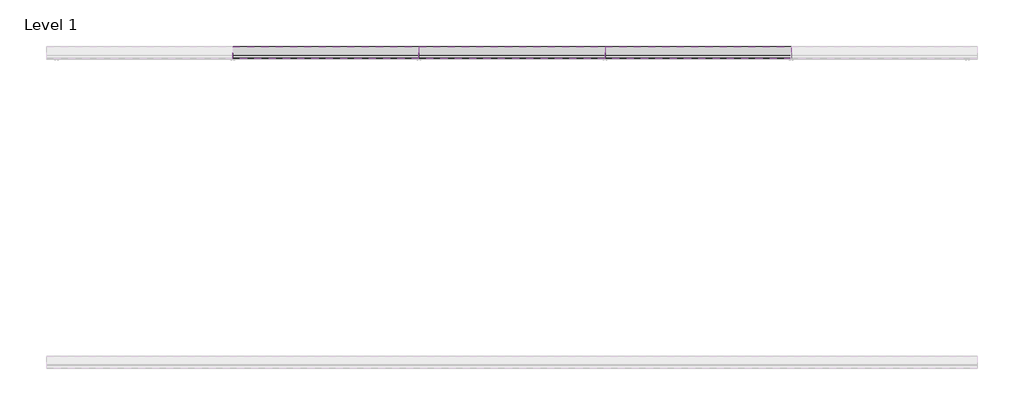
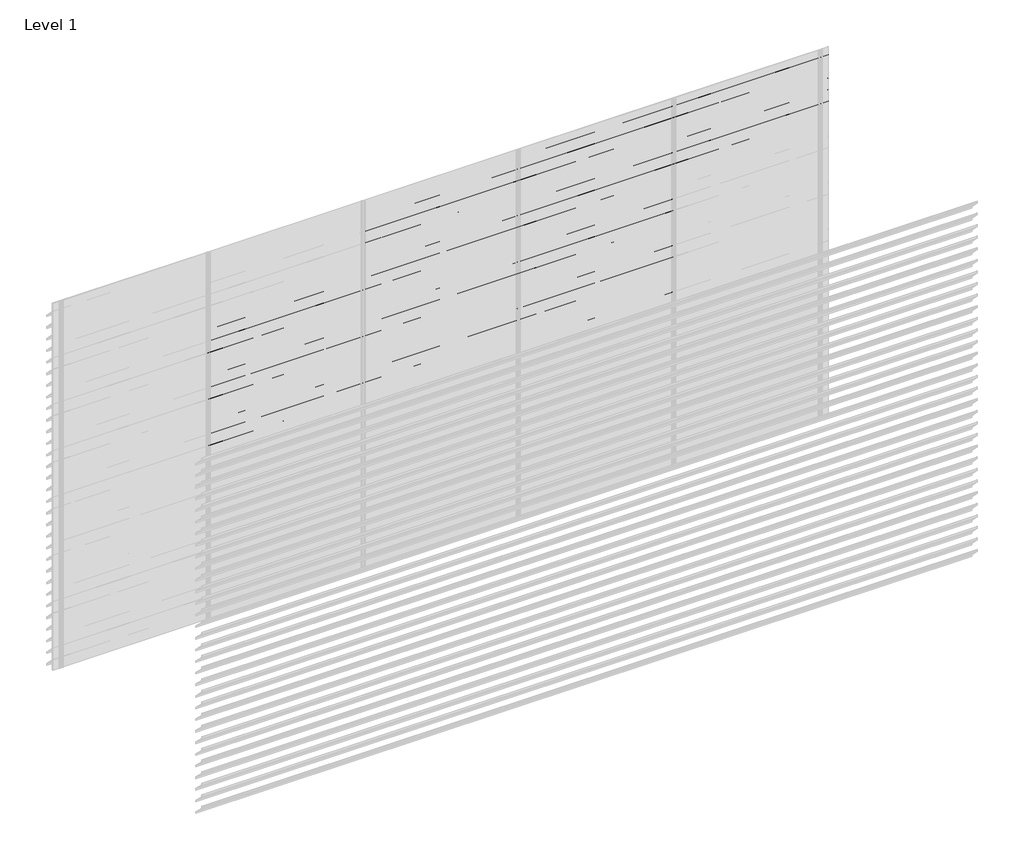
# One storey, part 23 of 24: 94 proxies.
"""IFC4 building model written with IfcOpenShell, lengths in millimetres."""

from ifc_helpers import new_model, si_unit, frame, origin, place, context, project, spatial, polyline, outline, extrude, element, save

model = new_model("IFC4")

# Units and contexts
model_context = context("Model", 3, world=origin())
ifc_project = project(units=[si_unit("LENGTHUNIT", "METRE", prefix="MILLI")], contexts=[model_context])

# Site, building, storey
site = spatial("IfcSite", under=ifc_project)
building = spatial("IfcBuilding", under=site)
storey = spatial("IfcBuildingStorey", under=building, Name="Level 1", Elevation=0.0)

# Proxies
placement = place(None, origin())
element("IfcBuildingElementProxy", 1, Name="Wall Sweeps", at=placement, inside=storey, context=model_context, shape_type="SweptSolid", body=[
    extrude(outline(polyline([(79.2, 2367.9), (77.7, 2367.9), (77.7, 2380.1762333), (2.0, 2455.4561238), (2.0, 2470.0), (3.5, 2470.0), (3.5, 2456.0798905), (79.2, 2380.8), (79.2, 2367.9)])), frame((1200.0, 0.0, 0.0), z_axis=(1.0, 0.0, 0.0), x_axis=(0.0, 1.0, 0.0)), (0.0, 0.0, 1.0), 1200.0),
])
element("IfcBuildingElementProxy", 2, Name="Wall Sweeps", at=placement, inside=storey, context=model_context, shape_type="SweptSolid", body=[
    extrude(outline(polyline([(79.2, 2272.9), (77.7, 2272.9), (77.7, 2285.1762333), (2.0, 2360.4561238), (2.0, 2375.0), (3.5, 2375.0), (3.5, 2361.0798905), (79.2, 2285.8), (79.2, 2272.9)])), frame((1200.0, 0.0, 0.0), z_axis=(1.0, 0.0, 0.0), x_axis=(0.0, 1.0, 0.0)), (0.0, 0.0, 1.0), 1200.0),
])
element("IfcBuildingElementProxy", 3, Name="Wall Sweeps", at=placement, inside=storey, context=model_context, shape_type="SweptSolid", body=[
    extrude(outline(polyline([(79.2, 2177.9), (77.7, 2177.9), (77.7, 2190.1762333), (2.0, 2265.4561238), (2.0, 2280.0), (3.5, 2280.0), (3.5, 2266.0798905), (79.2, 2190.8), (79.2, 2177.9)])), frame((1200.0, 0.0, 0.0), z_axis=(1.0, 0.0, 0.0), x_axis=(0.0, 1.0, 0.0)), (0.0, 0.0, 1.0), 1200.0),
])
element("IfcBuildingElementProxy", 4, Name="Wall Sweeps", at=placement, inside=storey, context=model_context, shape_type="SweptSolid", body=[
    extrude(outline(polyline([(79.2, 2082.9), (77.7, 2082.9), (77.7, 2095.1762333), (2.0, 2170.4561238), (2.0, 2185.0), (3.5, 2185.0), (3.5, 2171.0798905), (79.2, 2095.8), (79.2, 2082.9)])), frame((1200.0, 0.0, 0.0), z_axis=(1.0, 0.0, 0.0), x_axis=(0.0, 1.0, 0.0)), (0.0, 0.0, 1.0), 1200.0),
])
element("IfcBuildingElementProxy", 5, Name="Wall Sweeps", at=placement, inside=storey, context=model_context, shape_type="SweptSolid", body=[
    extrude(outline(polyline([(79.2, 1987.9), (77.7, 1987.9), (77.7, 2000.1762333), (2.0, 2075.4561238), (2.0, 2090.0), (3.5, 2090.0), (3.5, 2076.0798905), (79.2, 2000.8), (79.2, 1987.9)])), frame((1200.0, 0.0, 0.0), z_axis=(1.0, 0.0, 0.0), x_axis=(0.0, 1.0, 0.0)), (0.0, 0.0, 1.0), 1200.0),
])
element("IfcBuildingElementProxy", 6, Name="Wall Sweeps", at=placement, inside=storey, context=model_context, shape_type="SweptSolid", body=[
    extrude(outline(polyline([(79.2, 1892.9), (77.7, 1892.9), (77.7, 1905.1762333), (2.0, 1980.4561238), (2.0, 1995.0), (3.5, 1995.0), (3.5, 1981.0798905), (79.2, 1905.8), (79.2, 1892.9)])), frame((1200.0, 0.0, 0.0), z_axis=(1.0, 0.0, 0.0), x_axis=(0.0, 1.0, 0.0)), (0.0, 0.0, 1.0), 1200.0),
])
element("IfcBuildingElementProxy", 7, Name="Wall Sweeps", at=placement, inside=storey, context=model_context, shape_type="SweptSolid", body=[
    extrude(outline(polyline([(79.2, 1797.9), (77.7, 1797.9), (77.7, 1810.1762333), (2.0, 1885.4561238), (2.0, 1900.0), (3.5, 1900.0), (3.5, 1886.0798905), (79.2, 1810.8), (79.2, 1797.9)])), frame((1200.0, 0.0, 0.0), z_axis=(1.0, 0.0, 0.0), x_axis=(0.0, 1.0, 0.0)), (0.0, 0.0, 1.0), 1200.0),
])
element("IfcBuildingElementProxy", 8, Name="Wall Sweeps", at=placement, inside=storey, context=model_context, shape_type="SweptSolid", body=[
    extrude(outline(polyline([(79.2, 1702.9), (77.7, 1702.9), (77.7, 1715.1762333), (2.0, 1790.4561238), (2.0, 1805.0), (3.5, 1805.0), (3.5, 1791.0798905), (79.2, 1715.8), (79.2, 1702.9)])), frame((1200.0, 0.0, 0.0), z_axis=(1.0, 0.0, 0.0), x_axis=(0.0, 1.0, 0.0)), (0.0, 0.0, 1.0), 1200.0),
])
element("IfcBuildingElementProxy", 9, Name="Wall Sweeps", at=placement, inside=storey, context=model_context, shape_type="SweptSolid", body=[
    extrude(outline(polyline([(79.2, 1607.9), (77.7, 1607.9), (77.7, 1620.1762333), (2.0, 1695.4561238), (2.0, 1710.0), (3.5, 1710.0), (3.5, 1696.0798905), (79.2, 1620.8), (79.2, 1607.9)])), frame((1200.0, 0.0, 0.0), z_axis=(1.0, 0.0, 0.0), x_axis=(0.0, 1.0, 0.0)), (0.0, 0.0, 1.0), 1200.0),
])
element("IfcBuildingElementProxy", 10, Name="Wall Sweeps", at=placement, inside=storey, context=model_context, shape_type="SweptSolid", body=[
    extrude(outline(polyline([(79.2, 1512.9), (77.7, 1512.9), (77.7, 1525.1762333), (2.0, 1600.4561238), (2.0, 1615.0), (3.5, 1615.0), (3.5, 1601.0798905), (79.2, 1525.8), (79.2, 1512.9)])), frame((1200.0, 0.0, 0.0), z_axis=(1.0, 0.0, 0.0), x_axis=(0.0, 1.0, 0.0)), (0.0, 0.0, 1.0), 1200.0),
])
element("IfcBuildingElementProxy", 11, Name="Wall Sweeps", at=placement, inside=storey, context=model_context, shape_type="SweptSolid", body=[
    extrude(outline(polyline([(79.2, 1417.9), (77.7, 1417.9), (77.7, 1430.1762333), (2.0, 1505.4561238), (2.0, 1520.0), (3.5, 1520.0), (3.5, 1506.0798905), (79.2, 1430.8), (79.2, 1417.9)])), frame((1200.0, 0.0, 0.0), z_axis=(1.0, 0.0, 0.0), x_axis=(0.0, 1.0, 0.0)), (0.0, 0.0, 1.0), 1200.0),
])
element("IfcBuildingElementProxy", 12, Name="Wall Sweeps", at=placement, inside=storey, context=model_context, shape_type="SweptSolid", body=[
    extrude(outline(polyline([(79.2, 1322.9), (77.7, 1322.9), (77.7, 1335.1762333), (2.0, 1410.4561238), (2.0, 1425.0), (3.5, 1425.0), (3.5, 1411.0798905), (79.2, 1335.8), (79.2, 1322.9)])), frame((1200.0, 0.0, 0.0), z_axis=(1.0, 0.0, 0.0), x_axis=(0.0, 1.0, 0.0)), (0.0, 0.0, 1.0), 1200.0),
])
element("IfcBuildingElementProxy", 13, Name="Wall Sweeps", at=placement, inside=storey, context=model_context, shape_type="SweptSolid", body=[
    extrude(outline(polyline([(79.2, 1227.9), (77.7, 1227.9), (77.7, 1240.1762333), (2.0, 1315.4561238), (2.0, 1330.0), (3.5, 1330.0), (3.5, 1316.0798905), (79.2, 1240.8), (79.2, 1227.9)])), frame((1200.0, 0.0, 0.0), z_axis=(1.0, 0.0, 0.0), x_axis=(0.0, 1.0, 0.0)), (0.0, 0.0, 1.0), 1200.0),
])
element("IfcBuildingElementProxy", 14, Name="Wall Sweeps", at=placement, inside=storey, context=model_context, shape_type="SweptSolid", body=[
    extrude(outline(polyline([(79.2, 1132.9), (77.7, 1132.9), (77.7, 1145.1762333), (2.0, 1220.4561238), (2.0, 1235.0), (3.5, 1235.0), (3.5, 1221.0798905), (79.2, 1145.8), (79.2, 1132.9)])), frame((1200.0, 0.0, 0.0), z_axis=(1.0, 0.0, 0.0), x_axis=(0.0, 1.0, 0.0)), (0.0, 0.0, 1.0), 1200.0),
])
element("IfcBuildingElementProxy", 15, Name="Wall Sweeps", at=placement, inside=storey, context=model_context, shape_type="SweptSolid", body=[
    extrude(outline(polyline([(79.2, 1037.9), (77.7, 1037.9), (77.7, 1050.1762333), (2.0, 1125.4561238), (2.0, 1140.0), (3.5, 1140.0), (3.5, 1126.0798905), (79.2, 1050.8), (79.2, 1037.9)])), frame((1200.0, 0.0, 0.0), z_axis=(1.0, 0.0, 0.0), x_axis=(0.0, 1.0, 0.0)), (0.0, 0.0, 1.0), 1200.0),
])
element("IfcBuildingElementProxy", 16, Name="Wall Sweeps", at=placement, inside=storey, context=model_context, shape_type="SweptSolid", body=[
    extrude(outline(polyline([(79.2, 942.9), (77.7, 942.9), (77.7, 955.1762333), (2.0, 1030.4561238), (2.0, 1045.0), (3.5, 1045.0), (3.5, 1031.0798905), (79.2, 955.8), (79.2, 942.9)])), frame((1200.0, 0.0, 0.0), z_axis=(1.0, 0.0, 0.0), x_axis=(0.0, 1.0, 0.0)), (0.0, 0.0, 1.0), 1200.0),
])
element("IfcBuildingElementProxy", 17, Name="Wall Sweeps", at=placement, inside=storey, context=model_context, shape_type="SweptSolid", body=[
    extrude(outline(polyline([(79.2, 847.9), (77.7, 847.9), (77.7, 860.1762333), (2.0, 935.4561238), (2.0, 950.0), (3.5, 950.0), (3.5, 936.0798905), (79.2, 860.8), (79.2, 847.9)])), frame((1200.0, 0.0, 0.0), z_axis=(1.0, 0.0, 0.0), x_axis=(0.0, 1.0, 0.0)), (0.0, 0.0, 1.0), 1200.0),
])
element("IfcBuildingElementProxy", 18, Name="Wall Sweeps", at=placement, inside=storey, context=model_context, shape_type="SweptSolid", body=[
    extrude(outline(polyline([(79.2, 752.9), (77.7, 752.9), (77.7, 765.1762333), (2.0, 840.4561238), (2.0, 855.0), (3.5, 855.0), (3.5, 841.0798905), (79.2, 765.8), (79.2, 752.9)])), frame((1200.0, 0.0, 0.0), z_axis=(1.0, 0.0, 0.0), x_axis=(0.0, 1.0, 0.0)), (0.0, 0.0, 1.0), 1200.0),
])
element("IfcBuildingElementProxy", 19, Name="Wall Sweeps", at=placement, inside=storey, context=model_context, shape_type="SweptSolid", body=[
    extrude(outline(polyline([(79.2, 657.9), (77.7, 657.9), (77.7, 670.1762333), (2.0, 745.4561238), (2.0, 760.0), (3.5, 760.0), (3.5, 746.0798905), (79.2, 670.8), (79.2, 657.9)])), frame((1200.0, 0.0, 0.0), z_axis=(1.0, 0.0, 0.0), x_axis=(0.0, 1.0, 0.0)), (0.0, 0.0, 1.0), 1200.0),
])
element("IfcBuildingElementProxy", 20, Name="Wall Sweeps", at=placement, inside=storey, context=model_context, shape_type="SweptSolid", body=[
    extrude(outline(polyline([(79.2, 562.9), (77.7, 562.9), (77.7, 575.1762333), (2.0, 650.4561238), (2.0, 665.0), (3.5, 665.0), (3.5, 651.0798905), (79.2, 575.8), (79.2, 562.9)])), frame((1200.0, 0.0, 0.0), z_axis=(1.0, 0.0, 0.0), x_axis=(0.0, 1.0, 0.0)), (0.0, 0.0, 1.0), 1200.0),
])
element("IfcBuildingElementProxy", 21, Name="Wall Sweeps", at=placement, inside=storey, context=model_context, shape_type="SweptSolid", body=[
    extrude(outline(polyline([(79.2, 467.9), (77.7, 467.9), (77.7, 480.1762333), (2.0, 555.4561238), (2.0, 570.0), (3.5, 570.0), (3.5, 556.0798905), (79.2, 480.8), (79.2, 467.9)])), frame((1200.0, 0.0, 0.0), z_axis=(1.0, 0.0, 0.0), x_axis=(0.0, 1.0, 0.0)), (0.0, 0.0, 1.0), 1200.0),
])
element("IfcBuildingElementProxy", 22, Name="Wall Sweeps", at=placement, inside=storey, context=model_context, shape_type="SweptSolid", body=[
    extrude(outline(polyline([(79.2, 372.9), (77.7, 372.9), (77.7, 385.1762333), (2.0, 460.4561238), (2.0, 475.0), (3.5, 475.0), (3.5, 461.0798905), (79.2, 385.8), (79.2, 372.9)])), frame((1200.0, 0.0, 0.0), z_axis=(1.0, 0.0, 0.0), x_axis=(0.0, 1.0, 0.0)), (0.0, 0.0, 1.0), 1200.0),
])
element("IfcBuildingElementProxy", 23, Name="Wall Sweeps", at=placement, inside=storey, context=model_context, shape_type="SweptSolid", body=[
    extrude(outline(polyline([(79.2, 277.9), (77.7, 277.9), (77.7, 290.1762333), (2.0, 365.4561238), (2.0, 380.0), (3.5, 380.0), (3.5, 366.0798905), (79.2, 290.8), (79.2, 277.9)])), frame((1200.0, 0.0, 0.0), z_axis=(1.0, 0.0, 0.0), x_axis=(0.0, 1.0, 0.0)), (0.0, 0.0, 1.0), 1200.0),
])
element("IfcBuildingElementProxy", 24, Name="Wall Sweeps", at=placement, inside=storey, context=model_context, shape_type="SweptSolid", body=[
    extrude(outline(polyline([(79.2, 182.9), (77.7, 182.9), (77.7, 195.1762333), (2.0, 270.4561238), (2.0, 285.0), (3.5, 285.0), (3.5, 271.0798905), (79.2, 195.8), (79.2, 182.9)])), frame((1200.0, 0.0, 0.0), z_axis=(1.0, 0.0, 0.0), x_axis=(0.0, 1.0, 0.0)), (0.0, 0.0, 1.0), 1200.0),
])
element("IfcBuildingElementProxy", 25, Name="Wall Sweeps", at=placement, inside=storey, context=model_context, shape_type="SweptSolid", body=[
    extrude(outline(polyline([(79.2, 87.9), (77.7, 87.9), (77.7, 100.1762333), (2.0, 175.4561238), (2.0, 190.0), (3.5, 190.0), (3.5, 176.0798905), (79.2, 100.8), (79.2, 87.9)])), frame((1200.0, 0.0, 0.0), z_axis=(1.0, 0.0, 0.0), x_axis=(0.0, 1.0, 0.0)), (0.0, 0.0, 1.0), 1200.0),
])
element("IfcBuildingElementProxy", 26, Name="Wall Sweeps", at=placement, inside=storey, context=model_context, shape_type="SweptSolid", body=[
    extrude(outline(polyline([(79.2, -7.1), (77.7, -7.1), (77.7, 5.1762333), (2.0, 80.4561238), (2.0, 95.0), (3.5, 95.0), (3.5, 81.0798905), (79.2, 5.8), (79.2, -7.1)])), frame((1200.0, 0.0, 0.0), z_axis=(1.0, 0.0, 0.0), x_axis=(0.0, 1.0, 0.0)), (0.0, 0.0, 1.0), 1200.0),
])
element("IfcBuildingElementProxy", 27, Name="Wall Sweeps", at=placement, inside=storey, context=model_context, shape_type="SweptSolid", body=[
    extrude(outline(polyline([(79.2, 2842.9), (77.7, 2842.9), (77.7, 2855.1762333), (2.0, 2930.4561238), (2.0, 2945.0), (3.5, 2945.0), (3.5, 2931.0798905), (79.2, 2855.8), (79.2, 2842.9)])), frame((2400.0, 0.0, 0.0), z_axis=(1.0, 0.0, 0.0), x_axis=(0.0, 1.0, 0.0)), (0.0, 0.0, 1.0), 1200.0),
])
element("IfcBuildingElementProxy", 28, Name="Wall Sweeps", at=placement, inside=storey, context=model_context, shape_type="SweptSolid", body=[
    extrude(outline(polyline([(79.2, 2747.9), (77.7, 2747.9), (77.7, 2760.1762333), (2.0, 2835.4561238), (2.0, 2850.0), (3.5, 2850.0), (3.5, 2836.0798905), (79.2, 2760.8), (79.2, 2747.9)])), frame((2400.0, 0.0, 0.0), z_axis=(1.0, 0.0, 0.0), x_axis=(0.0, 1.0, 0.0)), (0.0, 0.0, 1.0), 1200.0),
])
element("IfcBuildingElementProxy", 29, Name="Wall Sweeps", at=placement, inside=storey, context=model_context, shape_type="SweptSolid", body=[
    extrude(outline(polyline([(79.2, 2652.9), (77.7, 2652.9), (77.7, 2665.1762333), (2.0, 2740.4561238), (2.0, 2755.0), (3.5, 2755.0), (3.5, 2741.0798905), (79.2, 2665.8), (79.2, 2652.9)])), frame((2400.0, 0.0, 0.0), z_axis=(1.0, 0.0, 0.0), x_axis=(0.0, 1.0, 0.0)), (0.0, 0.0, 1.0), 1200.0),
])
element("IfcBuildingElementProxy", 30, Name="Wall Sweeps", at=placement, inside=storey, context=model_context, shape_type="SweptSolid", body=[
    extrude(outline(polyline([(79.2, 2557.9), (77.7, 2557.9), (77.7, 2570.1762333), (2.0, 2645.4561238), (2.0, 2660.0), (3.5, 2660.0), (3.5, 2646.0798905), (79.2, 2570.8), (79.2, 2557.9)])), frame((2400.0, 0.0, 0.0), z_axis=(1.0, 0.0, 0.0), x_axis=(0.0, 1.0, 0.0)), (0.0, 0.0, 1.0), 1200.0),
])
element("IfcBuildingElementProxy", 31, Name="Wall Sweeps", at=placement, inside=storey, context=model_context, shape_type="SweptSolid", body=[
    extrude(outline(polyline([(79.2, 2462.9), (77.7, 2462.9), (77.7, 2475.1762333), (2.0, 2550.4561238), (2.0, 2565.0), (3.5, 2565.0), (3.5, 2551.0798905), (79.2, 2475.8), (79.2, 2462.9)])), frame((2400.0, 0.0, 0.0), z_axis=(1.0, 0.0, 0.0), x_axis=(0.0, 1.0, 0.0)), (0.0, 0.0, 1.0), 1200.0),
])
element("IfcBuildingElementProxy", 32, Name="Wall Sweeps", at=placement, inside=storey, context=model_context, shape_type="SweptSolid", body=[
    extrude(outline(polyline([(79.2, 2367.9), (77.7, 2367.9), (77.7, 2380.1762333), (2.0, 2455.4561238), (2.0, 2470.0), (3.5, 2470.0), (3.5, 2456.0798905), (79.2, 2380.8), (79.2, 2367.9)])), frame((2400.0, 0.0, 0.0), z_axis=(1.0, 0.0, 0.0), x_axis=(0.0, 1.0, 0.0)), (0.0, 0.0, 1.0), 1200.0),
])
element("IfcBuildingElementProxy", 33, Name="Wall Sweeps", at=placement, inside=storey, context=model_context, shape_type="SweptSolid", body=[
    extrude(outline(polyline([(79.2, 2272.9), (77.7, 2272.9), (77.7, 2285.1762333), (2.0, 2360.4561238), (2.0, 2375.0), (3.5, 2375.0), (3.5, 2361.0798905), (79.2, 2285.8), (79.2, 2272.9)])), frame((2400.0, 0.0, 0.0), z_axis=(1.0, 0.0, 0.0), x_axis=(0.0, 1.0, 0.0)), (0.0, 0.0, 1.0), 1200.0),
])
element("IfcBuildingElementProxy", 34, Name="Wall Sweeps", at=placement, inside=storey, context=model_context, shape_type="SweptSolid", body=[
    extrude(outline(polyline([(79.2, 2177.9), (77.7, 2177.9), (77.7, 2190.1762333), (2.0, 2265.4561238), (2.0, 2280.0), (3.5, 2280.0), (3.5, 2266.0798905), (79.2, 2190.8), (79.2, 2177.9)])), frame((2400.0, 0.0, 0.0), z_axis=(1.0, 0.0, 0.0), x_axis=(0.0, 1.0, 0.0)), (0.0, 0.0, 1.0), 1200.0),
])
element("IfcBuildingElementProxy", 35, Name="Wall Sweeps", at=placement, inside=storey, context=model_context, shape_type="SweptSolid", body=[
    extrude(outline(polyline([(79.2, 2082.9), (77.7, 2082.9), (77.7, 2095.1762333), (2.0, 2170.4561238), (2.0, 2185.0), (3.5, 2185.0), (3.5, 2171.0798905), (79.2, 2095.8), (79.2, 2082.9)])), frame((2400.0, 0.0, 0.0), z_axis=(1.0, 0.0, 0.0), x_axis=(0.0, 1.0, 0.0)), (0.0, 0.0, 1.0), 1200.0),
])
element("IfcBuildingElementProxy", 36, Name="Wall Sweeps", at=placement, inside=storey, context=model_context, shape_type="SweptSolid", body=[
    extrude(outline(polyline([(79.2, 1987.9), (77.7, 1987.9), (77.7, 2000.1762333), (2.0, 2075.4561238), (2.0, 2090.0), (3.5, 2090.0), (3.5, 2076.0798905), (79.2, 2000.8), (79.2, 1987.9)])), frame((2400.0, 0.0, 0.0), z_axis=(1.0, 0.0, 0.0), x_axis=(0.0, 1.0, 0.0)), (0.0, 0.0, 1.0), 1200.0),
])
element("IfcBuildingElementProxy", 37, Name="Wall Sweeps", at=placement, inside=storey, context=model_context, shape_type="SweptSolid", body=[
    extrude(outline(polyline([(79.2, 1892.9), (77.7, 1892.9), (77.7, 1905.1762333), (2.0, 1980.4561238), (2.0, 1995.0), (3.5, 1995.0), (3.5, 1981.0798905), (79.2, 1905.8), (79.2, 1892.9)])), frame((2400.0, 0.0, 0.0), z_axis=(1.0, 0.0, 0.0), x_axis=(0.0, 1.0, 0.0)), (0.0, 0.0, 1.0), 1200.0),
])
element("IfcBuildingElementProxy", 38, Name="Wall Sweeps", at=placement, inside=storey, context=model_context, shape_type="SweptSolid", body=[
    extrude(outline(polyline([(79.2, 1797.9), (77.7, 1797.9), (77.7, 1810.1762333), (2.0, 1885.4561238), (2.0, 1900.0), (3.5, 1900.0), (3.5, 1886.0798905), (79.2, 1810.8), (79.2, 1797.9)])), frame((2400.0, 0.0, 0.0), z_axis=(1.0, 0.0, 0.0), x_axis=(0.0, 1.0, 0.0)), (0.0, 0.0, 1.0), 1200.0),
])
element("IfcBuildingElementProxy", 39, Name="Wall Sweeps", at=placement, inside=storey, context=model_context, shape_type="SweptSolid", body=[
    extrude(outline(polyline([(79.2, 1702.9), (77.7, 1702.9), (77.7, 1715.1762333), (2.0, 1790.4561238), (2.0, 1805.0), (3.5, 1805.0), (3.5, 1791.0798905), (79.2, 1715.8), (79.2, 1702.9)])), frame((2400.0, 0.0, 0.0), z_axis=(1.0, 0.0, 0.0), x_axis=(0.0, 1.0, 0.0)), (0.0, 0.0, 1.0), 1200.0),
])
element("IfcBuildingElementProxy", 40, Name="Wall Sweeps", at=placement, inside=storey, context=model_context, shape_type="SweptSolid", body=[
    extrude(outline(polyline([(79.2, 1607.9), (77.7, 1607.9), (77.7, 1620.1762333), (2.0, 1695.4561238), (2.0, 1710.0), (3.5, 1710.0), (3.5, 1696.0798905), (79.2, 1620.8), (79.2, 1607.9)])), frame((2400.0, 0.0, 0.0), z_axis=(1.0, 0.0, 0.0), x_axis=(0.0, 1.0, 0.0)), (0.0, 0.0, 1.0), 1200.0),
])
element("IfcBuildingElementProxy", 41, Name="Wall Sweeps", at=placement, inside=storey, context=model_context, shape_type="SweptSolid", body=[
    extrude(outline(polyline([(79.2, 1512.9), (77.7, 1512.9), (77.7, 1525.1762333), (2.0, 1600.4561238), (2.0, 1615.0), (3.5, 1615.0), (3.5, 1601.0798905), (79.2, 1525.8), (79.2, 1512.9)])), frame((2400.0, 0.0, 0.0), z_axis=(1.0, 0.0, 0.0), x_axis=(0.0, 1.0, 0.0)), (0.0, 0.0, 1.0), 1200.0),
])
element("IfcBuildingElementProxy", 42, Name="Wall Sweeps", at=placement, inside=storey, context=model_context, shape_type="SweptSolid", body=[
    extrude(outline(polyline([(79.2, 1417.9), (77.7, 1417.9), (77.7, 1430.1762333), (2.0, 1505.4561238), (2.0, 1520.0), (3.5, 1520.0), (3.5, 1506.0798905), (79.2, 1430.8), (79.2, 1417.9)])), frame((2400.0, 0.0, 0.0), z_axis=(1.0, 0.0, 0.0), x_axis=(0.0, 1.0, 0.0)), (0.0, 0.0, 1.0), 1200.0),
])
element("IfcBuildingElementProxy", 43, Name="Wall Sweeps", at=placement, inside=storey, context=model_context, shape_type="SweptSolid", body=[
    extrude(outline(polyline([(79.2, 1322.9), (77.7, 1322.9), (77.7, 1335.1762333), (2.0, 1410.4561238), (2.0, 1425.0), (3.5, 1425.0), (3.5, 1411.0798905), (79.2, 1335.8), (79.2, 1322.9)])), frame((2400.0, 0.0, 0.0), z_axis=(1.0, 0.0, 0.0), x_axis=(0.0, 1.0, 0.0)), (0.0, 0.0, 1.0), 1200.0),
])
element("IfcBuildingElementProxy", 44, Name="Wall Sweeps", at=placement, inside=storey, context=model_context, shape_type="SweptSolid", body=[
    extrude(outline(polyline([(79.2, 1227.9), (77.7, 1227.9), (77.7, 1240.1762333), (2.0, 1315.4561238), (2.0, 1330.0), (3.5, 1330.0), (3.5, 1316.0798905), (79.2, 1240.8), (79.2, 1227.9)])), frame((2400.0, 0.0, 0.0), z_axis=(1.0, 0.0, 0.0), x_axis=(0.0, 1.0, 0.0)), (0.0, 0.0, 1.0), 1200.0),
])
element("IfcBuildingElementProxy", 45, Name="Wall Sweeps", at=placement, inside=storey, context=model_context, shape_type="SweptSolid", body=[
    extrude(outline(polyline([(79.2, 1132.9), (77.7, 1132.9), (77.7, 1145.1762333), (2.0, 1220.4561238), (2.0, 1235.0), (3.5, 1235.0), (3.5, 1221.0798905), (79.2, 1145.8), (79.2, 1132.9)])), frame((2400.0, 0.0, 0.0), z_axis=(1.0, 0.0, 0.0), x_axis=(0.0, 1.0, 0.0)), (0.0, 0.0, 1.0), 1200.0),
])
element("IfcBuildingElementProxy", 46, Name="Wall Sweeps", at=placement, inside=storey, context=model_context, shape_type="SweptSolid", body=[
    extrude(outline(polyline([(79.2, 1037.9), (77.7, 1037.9), (77.7, 1050.1762333), (2.0, 1125.4561238), (2.0, 1140.0), (3.5, 1140.0), (3.5, 1126.0798905), (79.2, 1050.8), (79.2, 1037.9)])), frame((2400.0, 0.0, 0.0), z_axis=(1.0, 0.0, 0.0), x_axis=(0.0, 1.0, 0.0)), (0.0, 0.0, 1.0), 1200.0),
])
element("IfcBuildingElementProxy", 47, Name="Wall Sweeps", at=placement, inside=storey, context=model_context, shape_type="SweptSolid", body=[
    extrude(outline(polyline([(79.2, 942.9), (77.7, 942.9), (77.7, 955.1762333), (2.0, 1030.4561238), (2.0, 1045.0), (3.5, 1045.0), (3.5, 1031.0798905), (79.2, 955.8), (79.2, 942.9)])), frame((2400.0, 0.0, 0.0), z_axis=(1.0, 0.0, 0.0), x_axis=(0.0, 1.0, 0.0)), (0.0, 0.0, 1.0), 1200.0),
])
element("IfcBuildingElementProxy", 48, Name="Wall Sweeps", at=placement, inside=storey, context=model_context, shape_type="SweptSolid", body=[
    extrude(outline(polyline([(79.2, 847.9), (77.7, 847.9), (77.7, 860.1762333), (2.0, 935.4561238), (2.0, 950.0), (3.5, 950.0), (3.5, 936.0798905), (79.2, 860.8), (79.2, 847.9)])), frame((2400.0, 0.0, 0.0), z_axis=(1.0, 0.0, 0.0), x_axis=(0.0, 1.0, 0.0)), (0.0, 0.0, 1.0), 1200.0),
])
element("IfcBuildingElementProxy", 49, Name="Wall Sweeps", at=placement, inside=storey, context=model_context, shape_type="SweptSolid", body=[
    extrude(outline(polyline([(79.2, 752.9), (77.7, 752.9), (77.7, 765.1762333), (2.0, 840.4561238), (2.0, 855.0), (3.5, 855.0), (3.5, 841.0798905), (79.2, 765.8), (79.2, 752.9)])), frame((2400.0, 0.0, 0.0), z_axis=(1.0, 0.0, 0.0), x_axis=(0.0, 1.0, 0.0)), (0.0, 0.0, 1.0), 1200.0),
])
element("IfcBuildingElementProxy", 50, Name="Wall Sweeps", at=placement, inside=storey, context=model_context, shape_type="SweptSolid", body=[
    extrude(outline(polyline([(79.2, 657.9), (77.7, 657.9), (77.7, 670.1762333), (2.0, 745.4561238), (2.0, 760.0), (3.5, 760.0), (3.5, 746.0798905), (79.2, 670.8), (79.2, 657.9)])), frame((2400.0, 0.0, 0.0), z_axis=(1.0, 0.0, 0.0), x_axis=(0.0, 1.0, 0.0)), (0.0, 0.0, 1.0), 1200.0),
])
element("IfcBuildingElementProxy", 51, Name="Wall Sweeps", at=placement, inside=storey, context=model_context, shape_type="SweptSolid", body=[
    extrude(outline(polyline([(79.2, 562.9), (77.7, 562.9), (77.7, 575.1762333), (2.0, 650.4561238), (2.0, 665.0), (3.5, 665.0), (3.5, 651.0798905), (79.2, 575.8), (79.2, 562.9)])), frame((2400.0, 0.0, 0.0), z_axis=(1.0, 0.0, 0.0), x_axis=(0.0, 1.0, 0.0)), (0.0, 0.0, 1.0), 1200.0),
])
element("IfcBuildingElementProxy", 52, Name="Wall Sweeps", at=placement, inside=storey, context=model_context, shape_type="SweptSolid", body=[
    extrude(outline(polyline([(79.2, 467.9), (77.7, 467.9), (77.7, 480.1762333), (2.0, 555.4561238), (2.0, 570.0), (3.5, 570.0), (3.5, 556.0798905), (79.2, 480.8), (79.2, 467.9)])), frame((2400.0, 0.0, 0.0), z_axis=(1.0, 0.0, 0.0), x_axis=(0.0, 1.0, 0.0)), (0.0, 0.0, 1.0), 1200.0),
])
element("IfcBuildingElementProxy", 53, Name="Wall Sweeps", at=placement, inside=storey, context=model_context, shape_type="SweptSolid", body=[
    extrude(outline(polyline([(79.2, 372.9), (77.7, 372.9), (77.7, 385.1762333), (2.0, 460.4561238), (2.0, 475.0), (3.5, 475.0), (3.5, 461.0798905), (79.2, 385.8), (79.2, 372.9)])), frame((2400.0, 0.0, 0.0), z_axis=(1.0, 0.0, 0.0), x_axis=(0.0, 1.0, 0.0)), (0.0, 0.0, 1.0), 1200.0),
])
element("IfcBuildingElementProxy", 54, Name="Wall Sweeps", at=placement, inside=storey, context=model_context, shape_type="SweptSolid", body=[
    extrude(outline(polyline([(79.2, 277.9), (77.7, 277.9), (77.7, 290.1762333), (2.0, 365.4561238), (2.0, 380.0), (3.5, 380.0), (3.5, 366.0798905), (79.2, 290.8), (79.2, 277.9)])), frame((2400.0, 0.0, 0.0), z_axis=(1.0, 0.0, 0.0), x_axis=(0.0, 1.0, 0.0)), (0.0, 0.0, 1.0), 1200.0),
])
element("IfcBuildingElementProxy", 55, Name="Wall Sweeps", at=placement, inside=storey, context=model_context, shape_type="SweptSolid", body=[
    extrude(outline(polyline([(79.2, 182.9), (77.7, 182.9), (77.7, 195.1762333), (2.0, 270.4561238), (2.0, 285.0), (3.5, 285.0), (3.5, 271.0798905), (79.2, 195.8), (79.2, 182.9)])), frame((2400.0, 0.0, 0.0), z_axis=(1.0, 0.0, 0.0), x_axis=(0.0, 1.0, 0.0)), (0.0, 0.0, 1.0), 1200.0),
])
element("IfcBuildingElementProxy", 56, Name="Wall Sweeps", at=placement, inside=storey, context=model_context, shape_type="SweptSolid", body=[
    extrude(outline(polyline([(79.2, 87.9), (77.7, 87.9), (77.7, 100.1762333), (2.0, 175.4561238), (2.0, 190.0), (3.5, 190.0), (3.5, 176.0798905), (79.2, 100.8), (79.2, 87.9)])), frame((2400.0, 0.0, 0.0), z_axis=(1.0, 0.0, 0.0), x_axis=(0.0, 1.0, 0.0)), (0.0, 0.0, 1.0), 1200.0),
])
element("IfcBuildingElementProxy", 57, Name="Wall Sweeps", at=placement, inside=storey, context=model_context, shape_type="SweptSolid", body=[
    extrude(outline(polyline([(79.2, -7.1), (77.7, -7.1), (77.7, 5.1762333), (2.0, 80.4561238), (2.0, 95.0), (3.5, 95.0), (3.5, 81.0798905), (79.2, 5.8), (79.2, -7.1)])), frame((2400.0, 0.0, 0.0), z_axis=(1.0, 0.0, 0.0), x_axis=(0.0, 1.0, 0.0)), (0.0, 0.0, 1.0), 1200.0),
])
element("IfcBuildingElementProxy", 58, Name="Wall Sweeps", at=placement, inside=storey, context=model_context, shape_type="SweptSolid", body=[
    extrude(outline(polyline([(79.2, 2842.9), (77.7, 2842.9), (77.7, 2855.1762333), (2.0, 2930.4561238), (2.0, 2945.0), (3.5, 2945.0), (3.5, 2931.0798905), (79.2, 2855.8), (79.2, 2842.9)])), frame((3600.0, 0.0, 0.0), z_axis=(1.0, 0.0, 0.0), x_axis=(0.0, 1.0, 0.0)), (0.0, 0.0, 1.0), 1200.0),
])
element("IfcBuildingElementProxy", 59, Name="Wall Sweeps", at=placement, inside=storey, context=model_context, shape_type="SweptSolid", body=[
    extrude(outline(polyline([(79.2, 2747.9), (77.7, 2747.9), (77.7, 2760.1762333), (2.0, 2835.4561238), (2.0, 2850.0), (3.5, 2850.0), (3.5, 2836.0798905), (79.2, 2760.8), (79.2, 2747.9)])), frame((3600.0, 0.0, 0.0), z_axis=(1.0, 0.0, 0.0), x_axis=(0.0, 1.0, 0.0)), (0.0, 0.0, 1.0), 1200.0),
])
element("IfcBuildingElementProxy", 60, Name="Wall Sweeps", at=placement, inside=storey, context=model_context, shape_type="SweptSolid", body=[
    extrude(outline(polyline([(79.2, 2652.9), (77.7, 2652.9), (77.7, 2665.1762333), (2.0, 2740.4561238), (2.0, 2755.0), (3.5, 2755.0), (3.5, 2741.0798905), (79.2, 2665.8), (79.2, 2652.9)])), frame((3600.0, 0.0, 0.0), z_axis=(1.0, 0.0, 0.0), x_axis=(0.0, 1.0, 0.0)), (0.0, 0.0, 1.0), 1200.0),
])
element("IfcBuildingElementProxy", 61, Name="Wall Sweeps", at=placement, inside=storey, context=model_context, shape_type="SweptSolid", body=[
    extrude(outline(polyline([(79.2, 2557.9), (77.7, 2557.9), (77.7, 2570.1762333), (2.0, 2645.4561238), (2.0, 2660.0), (3.5, 2660.0), (3.5, 2646.0798905), (79.2, 2570.8), (79.2, 2557.9)])), frame((3600.0, 0.0, 0.0), z_axis=(1.0, 0.0, 0.0), x_axis=(0.0, 1.0, 0.0)), (0.0, 0.0, 1.0), 1200.0),
])
element("IfcBuildingElementProxy", 62, Name="Wall Sweeps", at=placement, inside=storey, context=model_context, shape_type="SweptSolid", body=[
    extrude(outline(polyline([(79.2, 2462.9), (77.7, 2462.9), (77.7, 2475.1762333), (2.0, 2550.4561238), (2.0, 2565.0), (3.5, 2565.0), (3.5, 2551.0798905), (79.2, 2475.8), (79.2, 2462.9)])), frame((3600.0, 0.0, 0.0), z_axis=(1.0, 0.0, 0.0), x_axis=(0.0, 1.0, 0.0)), (0.0, 0.0, 1.0), 1200.0),
])
element("IfcBuildingElementProxy", 63, Name="Wall Sweeps", at=placement, inside=storey, context=model_context, shape_type="SweptSolid", body=[
    extrude(outline(polyline([(79.2, 2367.9), (77.7, 2367.9), (77.7, 2380.1762333), (2.0, 2455.4561238), (2.0, 2470.0), (3.5, 2470.0), (3.5, 2456.0798905), (79.2, 2380.8), (79.2, 2367.9)])), frame((3600.0, 0.0, 0.0), z_axis=(1.0, 0.0, 0.0), x_axis=(0.0, 1.0, 0.0)), (0.0, 0.0, 1.0), 1200.0),
])
element("IfcBuildingElementProxy", 64, Name="Wall Sweeps", at=placement, inside=storey, context=model_context, shape_type="SweptSolid", body=[
    extrude(outline(polyline([(79.2, 2272.9), (77.7, 2272.9), (77.7, 2285.1762333), (2.0, 2360.4561238), (2.0, 2375.0), (3.5, 2375.0), (3.5, 2361.0798905), (79.2, 2285.8), (79.2, 2272.9)])), frame((3600.0, 0.0, 0.0), z_axis=(1.0, 0.0, 0.0), x_axis=(0.0, 1.0, 0.0)), (0.0, 0.0, 1.0), 1200.0),
])
element("IfcBuildingElementProxy", 65, Name="Wall Sweeps", at=placement, inside=storey, context=model_context, shape_type="SweptSolid", body=[
    extrude(outline(polyline([(79.2, 2177.9), (77.7, 2177.9), (77.7, 2190.1762333), (2.0, 2265.4561238), (2.0, 2280.0), (3.5, 2280.0), (3.5, 2266.0798905), (79.2, 2190.8), (79.2, 2177.9)])), frame((3600.0, 0.0, 0.0), z_axis=(1.0, 0.0, 0.0), x_axis=(0.0, 1.0, 0.0)), (0.0, 0.0, 1.0), 1200.0),
])
element("IfcBuildingElementProxy", 66, Name="Wall Sweeps", at=placement, inside=storey, context=model_context, shape_type="SweptSolid", body=[
    extrude(outline(polyline([(79.2, 2082.9), (77.7, 2082.9), (77.7, 2095.1762333), (2.0, 2170.4561238), (2.0, 2185.0), (3.5, 2185.0), (3.5, 2171.0798905), (79.2, 2095.8), (79.2, 2082.9)])), frame((3600.0, 0.0, 0.0), z_axis=(1.0, 0.0, 0.0), x_axis=(0.0, 1.0, 0.0)), (0.0, 0.0, 1.0), 1200.0),
])
element("IfcBuildingElementProxy", 67, Name="Wall Sweeps", at=placement, inside=storey, context=model_context, shape_type="SweptSolid", body=[
    extrude(outline(polyline([(79.2, 1987.9), (77.7, 1987.9), (77.7, 2000.1762333), (2.0, 2075.4561238), (2.0, 2090.0), (3.5, 2090.0), (3.5, 2076.0798905), (79.2, 2000.8), (79.2, 1987.9)])), frame((3600.0, 0.0, 0.0), z_axis=(1.0, 0.0, 0.0), x_axis=(0.0, 1.0, 0.0)), (0.0, 0.0, 1.0), 1200.0),
])
element("IfcBuildingElementProxy", 68, Name="Wall Sweeps", at=placement, inside=storey, context=model_context, shape_type="SweptSolid", body=[
    extrude(outline(polyline([(79.2, 1892.9), (77.7, 1892.9), (77.7, 1905.1762333), (2.0, 1980.4561238), (2.0, 1995.0), (3.5, 1995.0), (3.5, 1981.0798905), (79.2, 1905.8), (79.2, 1892.9)])), frame((3600.0, 0.0, 0.0), z_axis=(1.0, 0.0, 0.0), x_axis=(0.0, 1.0, 0.0)), (0.0, 0.0, 1.0), 1200.0),
])
element("IfcBuildingElementProxy", 69, Name="Wall Sweeps", at=placement, inside=storey, context=model_context, shape_type="SweptSolid", body=[
    extrude(outline(polyline([(79.2, 1797.9), (77.7, 1797.9), (77.7, 1810.1762333), (2.0, 1885.4561238), (2.0, 1900.0), (3.5, 1900.0), (3.5, 1886.0798905), (79.2, 1810.8), (79.2, 1797.9)])), frame((3600.0, 0.0, 0.0), z_axis=(1.0, 0.0, 0.0), x_axis=(0.0, 1.0, 0.0)), (0.0, 0.0, 1.0), 1200.0),
])
element("IfcBuildingElementProxy", 70, Name="Wall Sweeps", at=placement, inside=storey, context=model_context, shape_type="SweptSolid", body=[
    extrude(outline(polyline([(79.2, 1702.9), (77.7, 1702.9), (77.7, 1715.1762333), (2.0, 1790.4561238), (2.0, 1805.0), (3.5, 1805.0), (3.5, 1791.0798905), (79.2, 1715.8), (79.2, 1702.9)])), frame((3600.0, 0.0, 0.0), z_axis=(1.0, 0.0, 0.0), x_axis=(0.0, 1.0, 0.0)), (0.0, 0.0, 1.0), 1200.0),
])
element("IfcBuildingElementProxy", 71, Name="Wall Sweeps", at=placement, inside=storey, context=model_context, shape_type="SweptSolid", body=[
    extrude(outline(polyline([(79.2, 1607.9), (77.7, 1607.9), (77.7, 1620.1762333), (2.0, 1695.4561238), (2.0, 1710.0), (3.5, 1710.0), (3.5, 1696.0798905), (79.2, 1620.8), (79.2, 1607.9)])), frame((3600.0, 0.0, 0.0), z_axis=(1.0, 0.0, 0.0), x_axis=(0.0, 1.0, 0.0)), (0.0, 0.0, 1.0), 1200.0),
])
element("IfcBuildingElementProxy", 72, Name="Wall Sweeps", at=placement, inside=storey, context=model_context, shape_type="SweptSolid", body=[
    extrude(outline(polyline([(79.2, 1512.9), (77.7, 1512.9), (77.7, 1525.1762333), (2.0, 1600.4561238), (2.0, 1615.0), (3.5, 1615.0), (3.5, 1601.0798905), (79.2, 1525.8), (79.2, 1512.9)])), frame((3600.0, 0.0, 0.0), z_axis=(1.0, 0.0, 0.0), x_axis=(0.0, 1.0, 0.0)), (0.0, 0.0, 1.0), 1200.0),
])
element("IfcBuildingElementProxy", 73, Name="Wall Sweeps", at=placement, inside=storey, context=model_context, shape_type="SweptSolid", body=[
    extrude(outline(polyline([(79.2, 1417.9), (77.7, 1417.9), (77.7, 1430.1762333), (2.0, 1505.4561238), (2.0, 1520.0), (3.5, 1520.0), (3.5, 1506.0798905), (79.2, 1430.8), (79.2, 1417.9)])), frame((3600.0, 0.0, 0.0), z_axis=(1.0, 0.0, 0.0), x_axis=(0.0, 1.0, 0.0)), (0.0, 0.0, 1.0), 1200.0),
])
element("IfcBuildingElementProxy", 74, Name="Wall Sweeps", at=placement, inside=storey, context=model_context, shape_type="SweptSolid", body=[
    extrude(outline(polyline([(79.2, 1322.9), (77.7, 1322.9), (77.7, 1335.1762333), (2.0, 1410.4561238), (2.0, 1425.0), (3.5, 1425.0), (3.5, 1411.0798905), (79.2, 1335.8), (79.2, 1322.9)])), frame((3600.0, 0.0, 0.0), z_axis=(1.0, 0.0, 0.0), x_axis=(0.0, 1.0, 0.0)), (0.0, 0.0, 1.0), 1200.0),
])
element("IfcBuildingElementProxy", 75, Name="Wall Sweeps", at=placement, inside=storey, context=model_context, shape_type="SweptSolid", body=[
    extrude(outline(polyline([(79.2, 1227.9), (77.7, 1227.9), (77.7, 1240.1762333), (2.0, 1315.4561238), (2.0, 1330.0), (3.5, 1330.0), (3.5, 1316.0798905), (79.2, 1240.8), (79.2, 1227.9)])), frame((3600.0, 0.0, 0.0), z_axis=(1.0, 0.0, 0.0), x_axis=(0.0, 1.0, 0.0)), (0.0, 0.0, 1.0), 1200.0),
])
element("IfcBuildingElementProxy", 76, Name="Wall Sweeps", at=placement, inside=storey, context=model_context, shape_type="SweptSolid", body=[
    extrude(outline(polyline([(79.2, 1132.9), (77.7, 1132.9), (77.7, 1145.1762333), (2.0, 1220.4561238), (2.0, 1235.0), (3.5, 1235.0), (3.5, 1221.0798905), (79.2, 1145.8), (79.2, 1132.9)])), frame((3600.0, 0.0, 0.0), z_axis=(1.0, 0.0, 0.0), x_axis=(0.0, 1.0, 0.0)), (0.0, 0.0, 1.0), 1200.0),
])
element("IfcBuildingElementProxy", 77, Name="Wall Sweeps", at=placement, inside=storey, context=model_context, shape_type="SweptSolid", body=[
    extrude(outline(polyline([(79.2, 1037.9), (77.7, 1037.9), (77.7, 1050.1762333), (2.0, 1125.4561238), (2.0, 1140.0), (3.5, 1140.0), (3.5, 1126.0798905), (79.2, 1050.8), (79.2, 1037.9)])), frame((3600.0, 0.0, 0.0), z_axis=(1.0, 0.0, 0.0), x_axis=(0.0, 1.0, 0.0)), (0.0, 0.0, 1.0), 1200.0),
])
element("IfcBuildingElementProxy", 78, Name="Wall Sweeps", at=placement, inside=storey, context=model_context, shape_type="SweptSolid", body=[
    extrude(outline(polyline([(79.2, 942.9), (77.7, 942.9), (77.7, 955.1762333), (2.0, 1030.4561238), (2.0, 1045.0), (3.5, 1045.0), (3.5, 1031.0798905), (79.2, 955.8), (79.2, 942.9)])), frame((3600.0, 0.0, 0.0), z_axis=(1.0, 0.0, 0.0), x_axis=(0.0, 1.0, 0.0)), (0.0, 0.0, 1.0), 1200.0),
])
element("IfcBuildingElementProxy", 79, Name="Wall Sweeps", at=placement, inside=storey, context=model_context, shape_type="SweptSolid", body=[
    extrude(outline(polyline([(79.2, 847.9), (77.7, 847.9), (77.7, 860.1762333), (2.0, 935.4561238), (2.0, 950.0), (3.5, 950.0), (3.5, 936.0798905), (79.2, 860.8), (79.2, 847.9)])), frame((3600.0, 0.0, 0.0), z_axis=(1.0, 0.0, 0.0), x_axis=(0.0, 1.0, 0.0)), (0.0, 0.0, 1.0), 1200.0),
])
element("IfcBuildingElementProxy", 80, Name="Wall Sweeps", at=placement, inside=storey, context=model_context, shape_type="SweptSolid", body=[
    extrude(outline(polyline([(79.2, 752.9), (77.7, 752.9), (77.7, 765.1762333), (2.0, 840.4561238), (2.0, 855.0), (3.5, 855.0), (3.5, 841.0798905), (79.2, 765.8), (79.2, 752.9)])), frame((3600.0, 0.0, 0.0), z_axis=(1.0, 0.0, 0.0), x_axis=(0.0, 1.0, 0.0)), (0.0, 0.0, 1.0), 1200.0),
])
element("IfcBuildingElementProxy", 81, Name="Wall Sweeps", at=placement, inside=storey, context=model_context, shape_type="SweptSolid", body=[
    extrude(outline(polyline([(79.2, 657.9), (77.7, 657.9), (77.7, 670.1762333), (2.0, 745.4561238), (2.0, 760.0), (3.5, 760.0), (3.5, 746.0798905), (79.2, 670.8), (79.2, 657.9)])), frame((3600.0, 0.0, 0.0), z_axis=(1.0, 0.0, 0.0), x_axis=(0.0, 1.0, 0.0)), (0.0, 0.0, 1.0), 1200.0),
])
element("IfcBuildingElementProxy", 82, Name="Wall Sweeps", at=placement, inside=storey, context=model_context, shape_type="SweptSolid", body=[
    extrude(outline(polyline([(79.2, 562.9), (77.7, 562.9), (77.7, 575.1762333), (2.0, 650.4561238), (2.0, 665.0), (3.5, 665.0), (3.5, 651.0798905), (79.2, 575.8), (79.2, 562.9)])), frame((3600.0, 0.0, 0.0), z_axis=(1.0, 0.0, 0.0), x_axis=(0.0, 1.0, 0.0)), (0.0, 0.0, 1.0), 1200.0),
])
element("IfcBuildingElementProxy", 83, Name="Wall Sweeps", at=placement, inside=storey, context=model_context, shape_type="SweptSolid", body=[
    extrude(outline(polyline([(79.2, 467.9), (77.7, 467.9), (77.7, 480.1762333), (2.0, 555.4561238), (2.0, 570.0), (3.5, 570.0), (3.5, 556.0798905), (79.2, 480.8), (79.2, 467.9)])), frame((3600.0, 0.0, 0.0), z_axis=(1.0, 0.0, 0.0), x_axis=(0.0, 1.0, 0.0)), (0.0, 0.0, 1.0), 1200.0),
])
element("IfcBuildingElementProxy", 84, Name="Wall Sweeps", at=placement, inside=storey, context=model_context, shape_type="SweptSolid", body=[
    extrude(outline(polyline([(79.2, 372.9), (77.7, 372.9), (77.7, 385.1762333), (2.0, 460.4561238), (2.0, 475.0), (3.5, 475.0), (3.5, 461.0798905), (79.2, 385.8), (79.2, 372.9)])), frame((3600.0, 0.0, 0.0), z_axis=(1.0, 0.0, 0.0), x_axis=(0.0, 1.0, 0.0)), (0.0, 0.0, 1.0), 1200.0),
])
element("IfcBuildingElementProxy", 85, Name="Wall Sweeps", at=placement, inside=storey, context=model_context, shape_type="SweptSolid", body=[
    extrude(outline(polyline([(79.2, 277.9), (77.7, 277.9), (77.7, 290.1762333), (2.0, 365.4561238), (2.0, 380.0), (3.5, 380.0), (3.5, 366.0798905), (79.2, 290.8), (79.2, 277.9)])), frame((3600.0, 0.0, 0.0), z_axis=(1.0, 0.0, 0.0), x_axis=(0.0, 1.0, 0.0)), (0.0, 0.0, 1.0), 1200.0),
])
element("IfcBuildingElementProxy", 86, Name="Wall Sweeps", at=placement, inside=storey, context=model_context, shape_type="SweptSolid", body=[
    extrude(outline(polyline([(79.2, 182.9), (77.7, 182.9), (77.7, 195.1762333), (2.0, 270.4561238), (2.0, 285.0), (3.5, 285.0), (3.5, 271.0798905), (79.2, 195.8), (79.2, 182.9)])), frame((3600.0, 0.0, 0.0), z_axis=(1.0, 0.0, 0.0), x_axis=(0.0, 1.0, 0.0)), (0.0, 0.0, 1.0), 1200.0),
])
element("IfcBuildingElementProxy", 87, Name="Wall Sweeps", at=placement, inside=storey, context=model_context, shape_type="SweptSolid", body=[
    extrude(outline(polyline([(79.2, 87.9), (77.7, 87.9), (77.7, 100.1762333), (2.0, 175.4561238), (2.0, 190.0), (3.5, 190.0), (3.5, 176.0798905), (79.2, 100.8), (79.2, 87.9)])), frame((3600.0, 0.0, 0.0), z_axis=(1.0, 0.0, 0.0), x_axis=(0.0, 1.0, 0.0)), (0.0, 0.0, 1.0), 1200.0),
])
element("IfcBuildingElementProxy", 88, Name="Wall Sweeps", at=placement, inside=storey, context=model_context, shape_type="SweptSolid", body=[
    extrude(outline(polyline([(79.2, -7.1), (77.7, -7.1), (77.7, 5.1762333), (2.0, 80.4561238), (2.0, 95.0), (3.5, 95.0), (3.5, 81.0798905), (79.2, 5.8), (79.2, -7.1)])), frame((3600.0, 0.0, 0.0), z_axis=(1.0, 0.0, 0.0), x_axis=(0.0, 1.0, 0.0)), (0.0, 0.0, 1.0), 1200.0),
])
element("IfcBuildingElementProxy", 89, Name="Wall Sweeps", at=placement, inside=storey, context=model_context, shape_type="SweptSolid", body=[
    extrude(outline(polyline([(79.2, 2842.9), (77.7, 2842.9), (77.7, 2855.1762333), (2.0, 2930.4561238), (2.0, 2945.0), (3.5, 2945.0), (3.5, 2931.0798905), (79.2, 2855.8), (79.2, 2842.9)])), frame((4800.0, 0.0, 0.0), z_axis=(1.0, 0.0, 0.0), x_axis=(0.0, 1.0, 0.0)), (0.0, 0.0, 1.0), 1200.0),
])
element("IfcBuildingElementProxy", 90, Name="Wall Sweeps", at=placement, inside=storey, context=model_context, shape_type="SweptSolid", body=[
    extrude(outline(polyline([(79.2, 2747.9), (77.7, 2747.9), (77.7, 2760.1762333), (2.0, 2835.4561238), (2.0, 2850.0), (3.5, 2850.0), (3.5, 2836.0798905), (79.2, 2760.8), (79.2, 2747.9)])), frame((4800.0, 0.0, 0.0), z_axis=(1.0, 0.0, 0.0), x_axis=(0.0, 1.0, 0.0)), (0.0, 0.0, 1.0), 1200.0),
])
element("IfcBuildingElementProxy", 91, Name="Wall Sweeps", at=placement, inside=storey, context=model_context, shape_type="SweptSolid", body=[
    extrude(outline(polyline([(79.2, 2652.9), (77.7, 2652.9), (77.7, 2665.1762333), (2.0, 2740.4561238), (2.0, 2755.0), (3.5, 2755.0), (3.5, 2741.0798905), (79.2, 2665.8), (79.2, 2652.9)])), frame((4800.0, 0.0, 0.0), z_axis=(1.0, 0.0, 0.0), x_axis=(0.0, 1.0, 0.0)), (0.0, 0.0, 1.0), 1200.0),
])
element("IfcBuildingElementProxy", 92, Name="Wall Sweeps", at=placement, inside=storey, context=model_context, shape_type="SweptSolid", body=[
    extrude(outline(polyline([(79.2, 2557.9), (77.7, 2557.9), (77.7, 2570.1762333), (2.0, 2645.4561238), (2.0, 2660.0), (3.5, 2660.0), (3.5, 2646.0798905), (79.2, 2570.8), (79.2, 2557.9)])), frame((4800.0, 0.0, 0.0), z_axis=(1.0, 0.0, 0.0), x_axis=(0.0, 1.0, 0.0)), (0.0, 0.0, 1.0), 1200.0),
])
element("IfcBuildingElementProxy", 93, Name="Wall Sweeps", at=placement, inside=storey, context=model_context, shape_type="SweptSolid", body=[
    extrude(outline(polyline([(79.2, 2462.9), (77.7, 2462.9), (77.7, 2475.1762333), (2.0, 2550.4561238), (2.0, 2565.0), (3.5, 2565.0), (3.5, 2551.0798905), (79.2, 2475.8), (79.2, 2462.9)])), frame((4800.0, 0.0, 0.0), z_axis=(1.0, 0.0, 0.0), x_axis=(0.0, 1.0, 0.0)), (0.0, 0.0, 1.0), 1200.0),
])
element("IfcBuildingElementProxy", 94, Name="Wall Sweeps", at=placement, inside=storey, context=model_context, shape_type="SweptSolid", body=[
    extrude(outline(polyline([(79.2, 2367.9), (77.7, 2367.9), (77.7, 2380.1762333), (2.0, 2455.4561238), (2.0, 2470.0), (3.5, 2470.0), (3.5, 2456.0798905), (79.2, 2380.8), (79.2, 2367.9)])), frame((4800.0, 0.0, 0.0), z_axis=(1.0, 0.0, 0.0), x_axis=(0.0, 1.0, 0.0)), (0.0, 0.0, 1.0), 1200.0),
])

save(model, "model.ifc")
